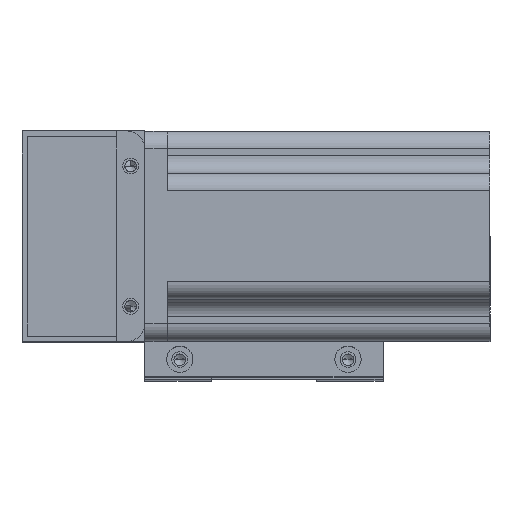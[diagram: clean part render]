
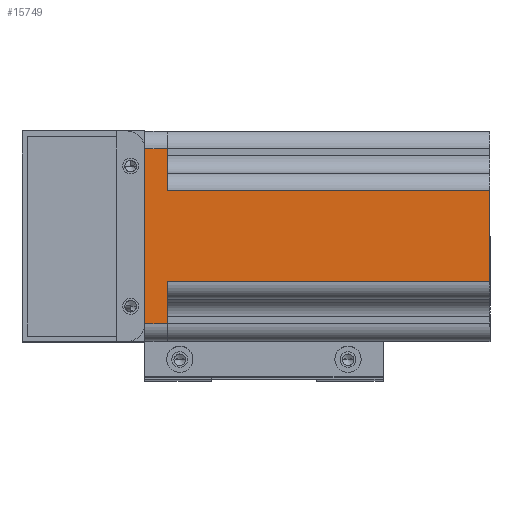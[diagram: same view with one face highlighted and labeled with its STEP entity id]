
A CAD part, top view. The second image highlights one B-rep face of the part: STEP entity #15749.
In plain terms, the highlighted planar face has unit normal (0, 0, 1) as drawn and (-1, 0, 0) by its records, which use the part's own axes.
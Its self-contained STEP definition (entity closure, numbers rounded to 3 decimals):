
#80 = VECTOR ( 'NONE', #14439, 1000. ) ;
#144 = DIRECTION ( 'NONE',  ( 0., -1., 0. ) ) ;
#1102 = CARTESIAN_POINT ( 'NONE',  ( -30., -18., -92. ) ) ;
#1444 = LINE ( 'NONE', #1102, #11522 ) ;
#1653 = LINE ( 'NONE', #7817, #3858 ) ;
#1838 = CARTESIAN_POINT ( 'NONE',  ( -30., -25., 6.5 ) ) ;
#2661 = ORIENTED_EDGE ( 'NONE', *, *, #21742, .T. ) ;
#2872 = VECTOR ( 'NONE', #5655, 1000. ) ;
#2901 = ORIENTED_EDGE ( 'NONE', *, *, #9025, .F. ) ;
#2938 = EDGE_CURVE ( 'NONE', #17491, #19003, #4776, .T. ) ;
#3535 = CARTESIAN_POINT ( 'NONE',  ( -30., -25., 6.5 ) ) ;
#3858 = VECTOR ( 'NONE', #9840, 1000. ) ;
#4015 = ORIENTED_EDGE ( 'NONE', *, *, #13066, .F. ) ;
#4776 = LINE ( 'NONE', #16166, #20160 ) ;
#5655 = DIRECTION ( 'NONE',  ( 0., 0., -1. ) ) ;
#6075 = EDGE_LOOP ( 'NONE', ( #13610, #8998, #2661, #4015, #2901, #17045, #8729, #19537 ) ) ;
#6925 = FACE_OUTER_BOUND ( 'NONE', #6075, .T. ) ;
#7817 = CARTESIAN_POINT ( 'NONE',  ( -30., -25., 6.5 ) ) ;
#7825 = CARTESIAN_POINT ( 'NONE',  ( -30., -25., 0. ) ) ;
#8275 = AXIS2_PLACEMENT_3D ( 'NONE', #3535, #21418, #15541 ) ;
#8530 = CARTESIAN_POINT ( 'NONE',  ( -30., 25., 0. ) ) ;
#8729 = ORIENTED_EDGE ( 'NONE', *, *, #11794, .T. ) ;
#8887 = EDGE_CURVE ( 'NONE', #21563, #15691, #13593, .T. ) ;
#8972 = LINE ( 'NONE', #24012, #25612 ) ;
#8998 = ORIENTED_EDGE ( 'NONE', *, *, #2938, .T. ) ;
#9025 = EDGE_CURVE ( 'NONE', #16915, #24115, #1653, .T. ) ;
#9034 = DIRECTION ( 'NONE',  ( 0., 0., -1. ) ) ;
#9473 = LINE ( 'NONE', #13477, #21993 ) ;
#9514 = LINE ( 'NONE', #12431, #80 ) ;
#9533 = DIRECTION ( 'NONE',  ( 0., -1., 0. ) ) ;
#9700 = EDGE_CURVE ( 'NONE', #16915, #13744, #17309, .T. ) ;
#9840 = DIRECTION ( 'NONE',  ( 0., -1., 0. ) ) ;
#11331 = CARTESIAN_POINT ( 'NONE',  ( -30., 13., 6.5 ) ) ;
#11522 = VECTOR ( 'NONE', #21345, 1000. ) ;
#11794 = EDGE_CURVE ( 'NONE', #13744, #21563, #9473, .T. ) ;
#12170 = CARTESIAN_POINT ( 'NONE',  ( -30., -13., -92. ) ) ;
#12431 = CARTESIAN_POINT ( 'NONE',  ( -30., -25., 6.5 ) ) ;
#12800 = CARTESIAN_POINT ( 'NONE',  ( -30., 13., -92. ) ) ;
#13066 = EDGE_CURVE ( 'NONE', #24115, #16528, #9514, .T. ) ;
#13198 = PLANE ( 'NONE',  #8275 ) ;
#13477 = CARTESIAN_POINT ( 'NONE',  ( -30., -25., 0. ) ) ;
#13593 = LINE ( 'NONE', #11331, #22077 ) ;
#13610 = ORIENTED_EDGE ( 'NONE', *, *, #22001, .F. ) ;
#13744 = VERTEX_POINT ( 'NONE', #8530 ) ;
#13975 = DIRECTION ( 'NONE',  ( 0., 0., 1. ) ) ;
#14439 = DIRECTION ( 'NONE',  ( 0., 0., -1. ) ) ;
#15541 = DIRECTION ( 'NONE',  ( 0., 0., -1. ) ) ;
#15691 = VERTEX_POINT ( 'NONE', #12800 ) ;
#15749 = ADVANCED_FACE ( 'NONE', ( #6925 ), #13198, .F. ) ;
#16166 = CARTESIAN_POINT ( 'NONE',  ( -30., -13., 6.5 ) ) ;
#16528 = VERTEX_POINT ( 'NONE', #7825 ) ;
#16915 = VERTEX_POINT ( 'NONE', #18414 ) ;
#17045 = ORIENTED_EDGE ( 'NONE', *, *, #9700, .T. ) ;
#17309 = LINE ( 'NONE', #25663, #2872 ) ;
#17491 = VERTEX_POINT ( 'NONE', #12170 ) ;
#18414 = CARTESIAN_POINT ( 'NONE',  ( -30., 25., 6.5 ) ) ;
#19003 = VERTEX_POINT ( 'NONE', #21813 ) ;
#19537 = ORIENTED_EDGE ( 'NONE', *, *, #8887, .T. ) ;
#20160 = VECTOR ( 'NONE', #13975, 1000. ) ;
#21345 = DIRECTION ( 'NONE',  ( 0., 1., 0. ) ) ;
#21418 = DIRECTION ( 'NONE',  ( 1., 0., 0. ) ) ;
#21563 = VERTEX_POINT ( 'NONE', #25782 ) ;
#21742 = EDGE_CURVE ( 'NONE', #19003, #16528, #8972, .T. ) ;
#21813 = CARTESIAN_POINT ( 'NONE',  ( -30., -13., 0. ) ) ;
#21993 = VECTOR ( 'NONE', #9533, 1000. ) ;
#22001 = EDGE_CURVE ( 'NONE', #17491, #15691, #1444, .T. ) ;
#22077 = VECTOR ( 'NONE', #9034, 1000. ) ;
#24012 = CARTESIAN_POINT ( 'NONE',  ( -30., -25., 0. ) ) ;
#24115 = VERTEX_POINT ( 'NONE', #1838 ) ;
#25612 = VECTOR ( 'NONE', #144, 1000. ) ;
#25663 = CARTESIAN_POINT ( 'NONE',  ( -30., 25., 6.5 ) ) ;
#25782 = CARTESIAN_POINT ( 'NONE',  ( -30., 13., 0. ) ) ;
